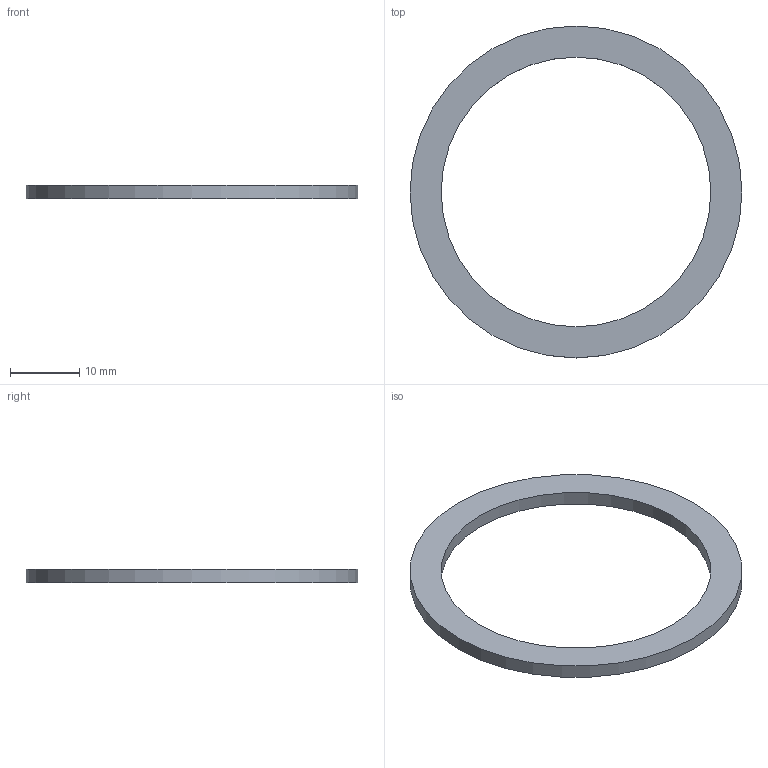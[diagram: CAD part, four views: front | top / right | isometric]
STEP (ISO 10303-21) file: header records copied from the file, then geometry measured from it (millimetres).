
FILE_DESCRIPTION( ( 'Unknown' ), '1' );
FILE_NAME( 'X:/Daten ( aktueller Bestand )/Projekte und Zeichnungen/Solid Edge/STP-Dateien/CF-Teile/7212.stp', 'Unknown', ( 'Unknown' ), ( 'Unknown' ), 'PSStep 14.0', 'Unknown', ' ' );
FILE_SCHEMA( ( 'AUTOMOTIVE_DESIGN { 1 0 10303 214 1 1 1 1 }' ) );
Length unit declared in the file: millimetre
Products named in the file (1): 1
Bounding box: 48 x 48 x 2 mm (x, y, z)
Volume: 1229.9 mm3; surface area: 1776.6 mm2
Topology: 1 solids, 1 shells, 4 faces, 6 edges, 4 vertices
Faces by surface type: cylinder 2, plane 2
Full cylindrical faces by diameter (mm): 39 x1, 48 x1
Entity records: 136 total; most frequent: DIRECTION 18, CARTESIAN_POINT 13, AXIS2_PLACEMENT_3D 9, EDGE_LOOP 8, ORIENTED_EDGE 8, FACE_OUTER_BOUND 6, STYLED_ITEM 4, PRESENTATION_STYLE_ASSIGNMENT 4
